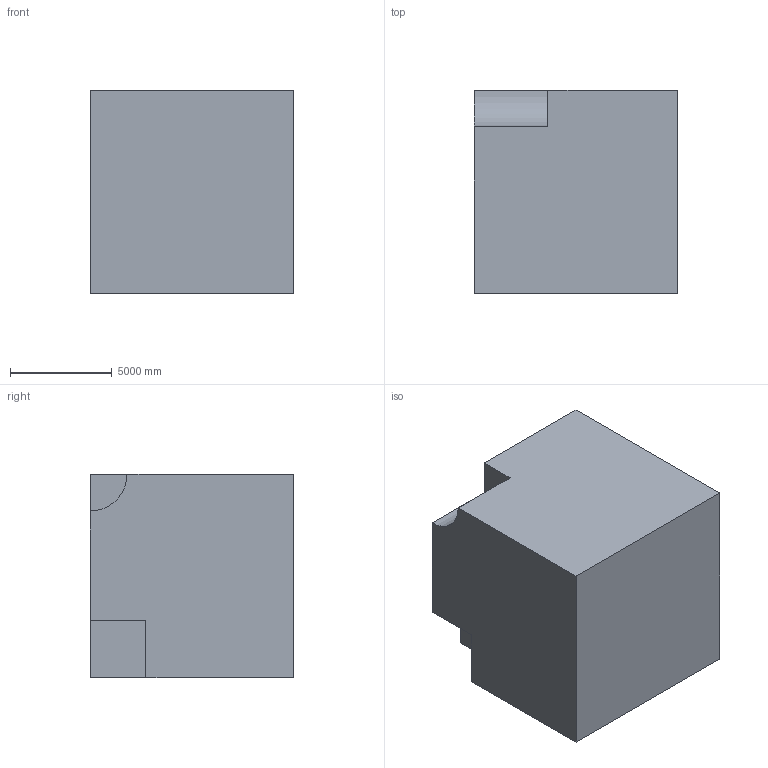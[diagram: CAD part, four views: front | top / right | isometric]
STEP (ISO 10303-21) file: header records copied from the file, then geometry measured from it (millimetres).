
FILE_DESCRIPTION (( 'STEP AP203' ), '1' );
FILE_NAME ('1283.STEP', '2022-08-18T13:33:18', ( 'user' ), ( '' ), 'SwSTEP 2.0', 'SolidWorks 2021', '' );
FILE_SCHEMA (( 'CONFIG_CONTROL_DESIGN' ));
Length unit declared in the file: centimetre
Products named in the file (1): 1283
Bounding box: 10000 x 10000 x 10000 mm (x, y, z)
Volume: 963571518325 mm3; surface area: 641183147.3 mm2
Topology: 1 solids, 1 shells, 15 faces, 36 edges, 24 vertices
Faces by surface type: plane 14, cylinder 1
Entity records: 509 total; most frequent: CARTESIAN_POINT 76, ORIENTED_EDGE 72, DIRECTION 70, EDGE_CURVE 36, LINE 34, VECTOR 34, VERTEX_POINT 24, AXIS2_PLACEMENT_3D 18
